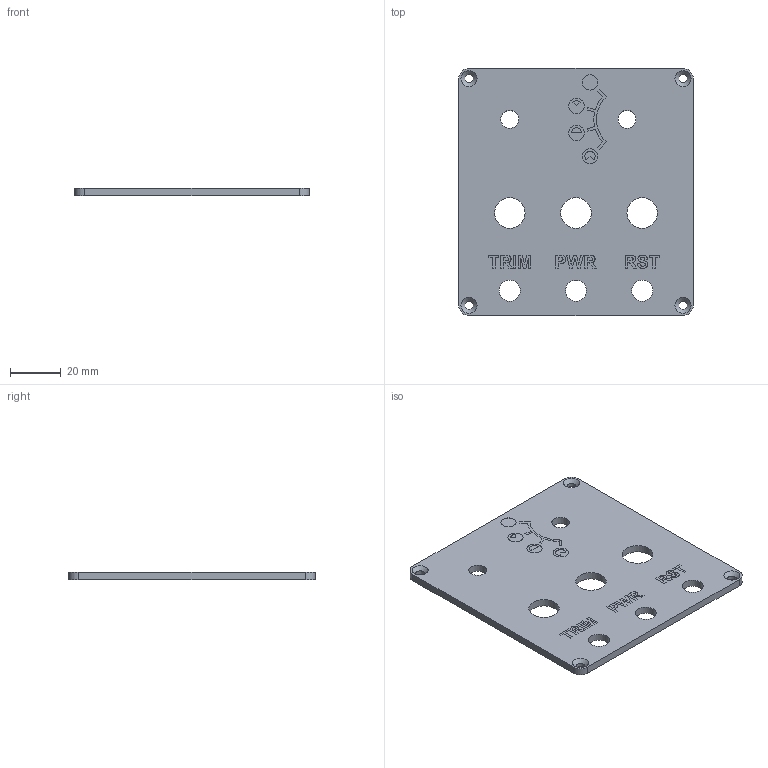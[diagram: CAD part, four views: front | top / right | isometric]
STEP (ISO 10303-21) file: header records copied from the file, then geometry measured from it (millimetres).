
FILE_DESCRIPTION(/* description */ (''),/* implementation_level */ '2;1');
FILE_NAME(/* name */ 'C:/Users/anton/Documents/Kerbal Space Program/Kerbal_Control_Panel/KCP2/CAD/STEPs/ModuleF_v4.step',/* time_stamp */ '2020-11-12T07:54:20-08:00',/* author */ (''),/* organization */ (''),/* preprocessor_version */ 'ST-DEVELOPER v18.1',/* originating_system */ 'Autodesk Translation Framework v9.3.0.1241',/* authorisation */ '');
FILE_SCHEMA (('AUTOMOTIVE_DESIGN { 1 0 10303 214 3 1 1 }'));
Length unit declared in the file: millimetre
Products named in the file (2): F-Plate; Labels
Assembly tree (1 placements, depth 2):
  F-Plate
    Labels
Bounding box: 92 x 97 x 3.02 mm (x, y, z)
Volume: 24839.1 mm3; surface area: 19011.1 mm2
Topology: 16 solids, 16 shells, 262 faces, 686 edges, 456 vertices
Faces by surface type: plane 142, bspline 89, cylinder 27, cone 4
Full cylindrical faces by diameter (mm): 3.4 x4, 6 x4, 7 x2, 8.25 x3, 12 x3
Entity records: 8965 total; most frequent: CARTESIAN_POINT 2921, ORIENTED_EDGE 1372, DIRECTION 920, EDGE_CURVE 686, VERTEX_POINT 456, LINE 450, VECTOR 450, EDGE_LOOP 300
